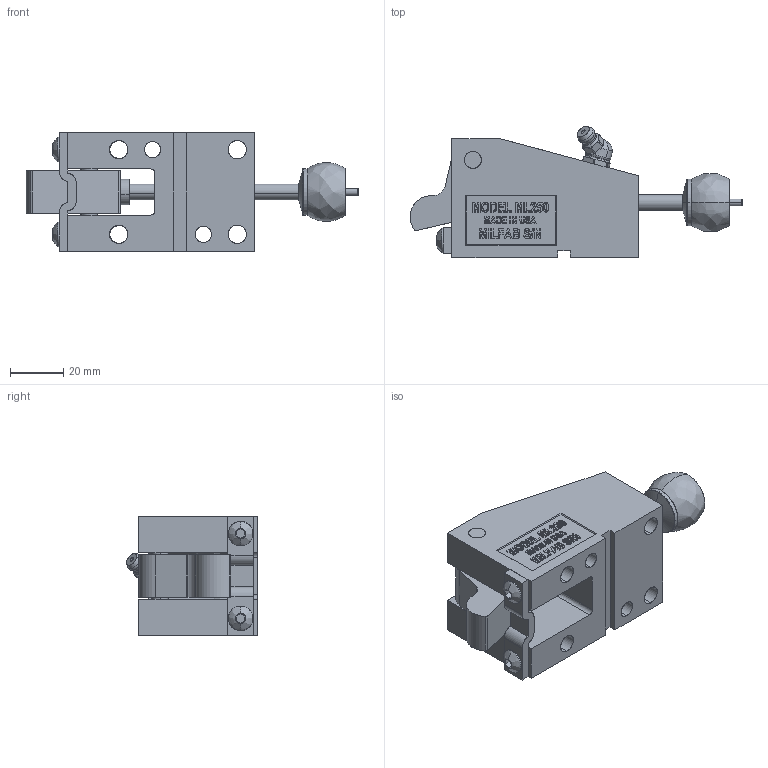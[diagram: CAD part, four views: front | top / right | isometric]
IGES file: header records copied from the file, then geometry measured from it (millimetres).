
Start section: SolidWorks IGES file using analytic representation for surfaces
Global section: file name: Y:\3\ML25045\CLOSED\ML25045-C.IGS; native system: SolidWorks 2006 by SolidWorks Corporation; preprocessor: SolidWorks 2006 by SolidWorks Corporation; author: Jim; date: 090124.170815; units: inch
Bounding box: 124.4 x 49.12 x 44.45 mm (x, y, z)
Surface area: 34730.8 mm2 (no closed solid volume)
Topology: 0 solids, 0 shells, 592 faces, 7375 edges, 7373 vertices
Faces by surface type: bspline 462, revolution 130
